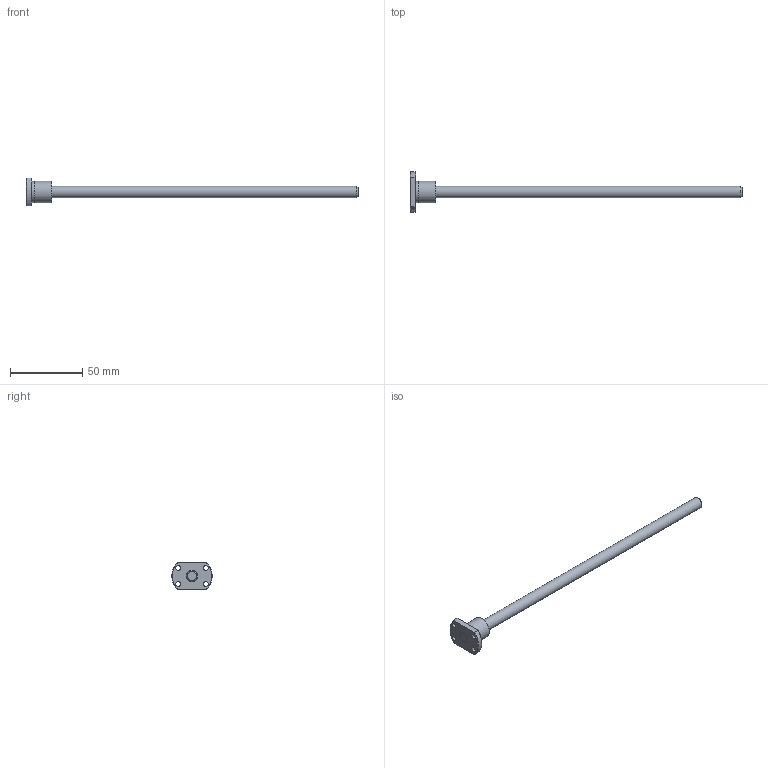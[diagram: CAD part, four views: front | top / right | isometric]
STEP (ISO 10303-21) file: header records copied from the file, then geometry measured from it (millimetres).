
FILE_DESCRIPTION( ( 'STEP AP203' ), '1' );
FILE_NAME( 'e:/temp/worker_91/temp/exporttempdir_4428_1904_GnFrO/format_0/SR0802K-230R230C7(0).stp', '2021-10-19T03:50:20', ( 'License CC BY-ND 4.0' ), ( 'CADENAS' ), ' ', 'PARTsolutions', ' ' );
FILE_SCHEMA( ( 'CONFIG_CONTROL_DESIGN' ) );
Length unit declared in the file: millimetre
Products named in the file (3): SR0802K-230R230C7(0); _SR0802K_shaft; _SR0802K_nut
Assembly tree (2 placements, depth 2):
  SR0802K-230R230C7(0)
    _SR0802K_shaft
    _SR0802K_nut
Bounding box: 230 x 27.9 x 19 mm (x, y, z)
Volume: 14887.3 mm3; surface area: 8250.1 mm2
Topology: 2 solids, 2 shells, 25 faces, 54 edges, 35 vertices
Faces by surface type: cylinder 10, plane 8, cone 7
Full cylindrical faces by diameter (mm): 3.4 x4, 8 x2, 14.6 x1, 15 x1
Entity records: 772 total; most frequent: CARTESIAN_POINT 130, DIRECTION 118, ORIENTED_EDGE 86, AXIS2_PLACEMENT_3D 55, EDGE_LOOP 48, EDGE_CURVE 43, VERTEX_POINT 35, FACE_OUTER_BOUND 33
